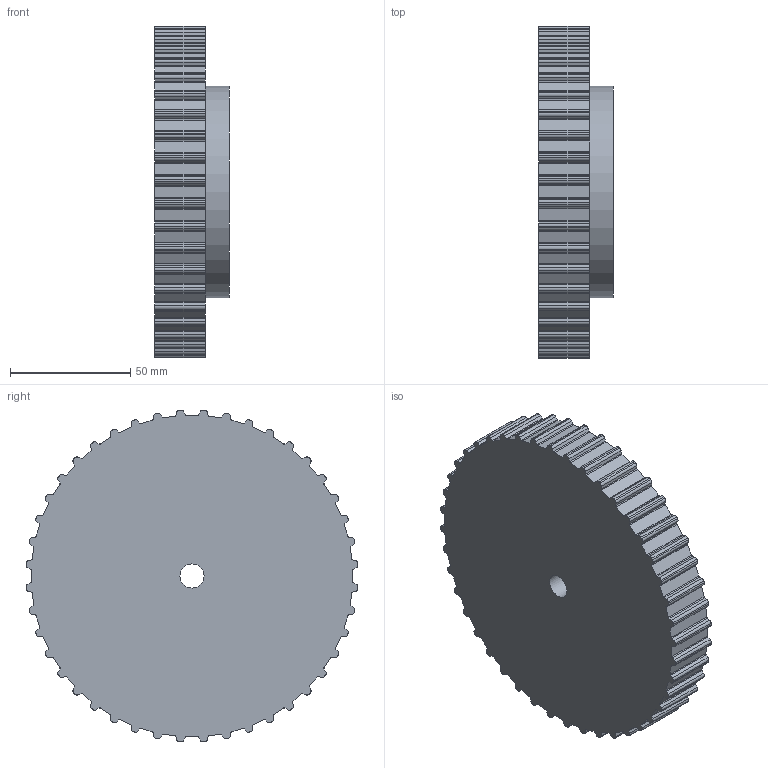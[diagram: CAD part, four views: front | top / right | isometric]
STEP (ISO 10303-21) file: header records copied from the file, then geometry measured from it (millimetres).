
FILE_DESCRIPTION( ( 'STEP AP203' ), '1' );
FILE_NAME( 'C:/Users/Stangenbergd/Documents/CAD_Step/1/16824400.stp', '2020-09-13T09:24:14', ( 'License CC BY-ND 4.0' ), ( 'CADENAS' ), ' ', 'PARTsolutions', ' ' );
FILE_SCHEMA( ( 'CONFIG_CONTROL_DESIGN' ) );
Length unit declared in the file: millimetre
Products named in the file (1): _16824400
Bounding box: 31 x 137.94 x 137.94 mm (x, y, z)
Volume: 359524.2 mm3; surface area: 43528.2 mm2
Topology: 1 solids, 1 shells, 357 faces, 1062 edges, 708 vertices
Faces by surface type: cylinder 222, plane 135
Full cylindrical faces by diameter (mm): 10 x1, 88 x1
Entity records: 12198 total; most frequent: DIRECTION 2220, CARTESIAN_POINT 2126, ORIENTED_EDGE 2120, EDGE_CURVE 1060, AXIS2_PLACEMENT_3D 802, VERTEX_POINT 708, LINE 616, VECTOR 616
